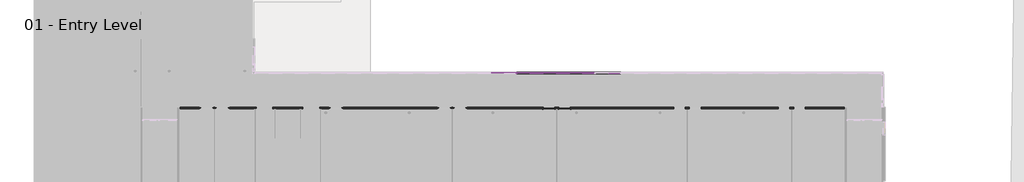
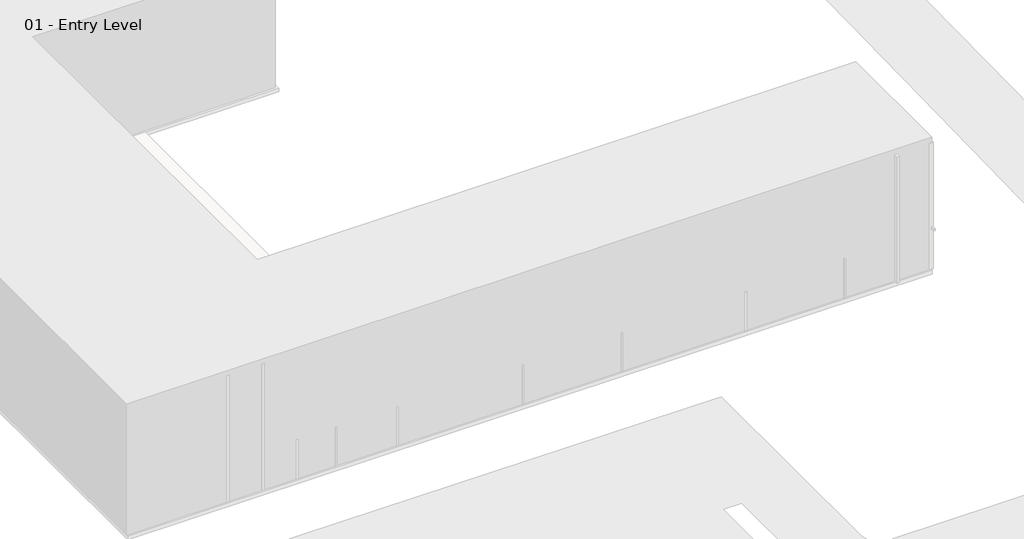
# One storey, part 19 of 34: 72 members, 36 plates, 2 doors, 1 wall.
"""IFC4 building model written with IfcOpenShell, lengths in millimetres."""

from ifc_helpers import new_model, si_unit, origin, place, context, project, spatial, faceted_brep, transform, mapped, element, save
from components import door_a1797ceb, door_a3eb833a, member_2b49869a, member_391b434c, member_9e90ae50, system_panel_glazed_1b9d6098, system_panel_glazed_70da479d

model = new_model("IFC4")

# Units and contexts
model_context = context("Model", 3, world=origin())
ifc_project = project(units=[si_unit("LENGTHUNIT", "METRE", prefix="MILLI")], contexts=[model_context])

# Site, building, storey
site = spatial("IfcSite", under=ifc_project)
building = spatial("IfcBuilding", under=site)
storey = spatial("IfcBuildingStorey", under=building, Name="01 - Entry Level", Elevation=0.0)

# Doors
placement = place(None, origin())
door_shape = door_a1797ceb(model_context)
element("IfcDoor", 1, ObjectType="Single-Flush : 36\" x 84\"", at=placement, inside=storey, context=model_context, shape_type="MappedRepresentation", body=[
    mapped(door_shape, transform((41364.8207476, 8270.8, 0.0), x_axis=(-1.0, 0.0, 0.0), y_axis=(0.0, -1.0, 0.0), z_axis=(0.0, 0.0, 1.0))),
])
door_2_shape = door_a3eb833a(model_context)
element("IfcDoor", 2, ObjectType="Single-Flush : 36\" x 84\"", at=placement, inside=storey, context=model_context, shape_type="MappedRepresentation", body=[
    mapped(door_2_shape, transform((40145.6207476, 8270.8, 0.0), x_axis=(1.0, 0.0, 0.0), y_axis=(0.0, 1.0, 0.0), z_axis=(0.0, 0.0, 1.0))),
])

# Members
member_shape = member_2b49869a(model_context)
element("IfcMember", 3, ObjectType="Rectangular Mullion : 2.5\" x 5\" rectangular", at=placement, inside=storey, context=model_context, shape_type="MappedRepresentation", body=[
    mapped(member_shape, transform((41720.4207476, 11001.3, 9753.6), x_axis=(-1.0, 0.0, 0.0), y_axis=(0.0, 1.0, 0.0), z_axis=(0.0, 0.0, -1.0))),
])
element("IfcMember", 4, ObjectType="Rectangular Mullion : 2.5\" x 5\" rectangular", at=placement, inside=storey, context=model_context, shape_type="MappedRepresentation", body=[
    mapped(member_shape, transform((39688.4207476, 11001.3, 9753.6), x_axis=(-1.0, 0.0, 0.0), y_axis=(0.0, 1.0, 0.0), z_axis=(0.0, 0.0, -1.0))),
])
element("IfcMember", 5, ObjectType="Rectangular Mullion : 2.5\" x 5\" rectangular", at=placement, inside=storey, context=model_context, shape_type="MappedRepresentation", body=[
    mapped(member_shape, transform((37656.4207476, 11001.3, 9753.6), x_axis=(-1.0, 0.0, 0.0), y_axis=(0.0, 1.0, 0.0), z_axis=(0.0, 0.0, -1.0))),
])
member_2_shape = member_391b434c(model_context)
element("IfcMember", 6, ObjectType="Rectangular Mullion : 2.5\" x 5\" rectangular", at=placement, inside=storey, context=model_context, shape_type="MappedRepresentation", body=[
    mapped(member_2_shape, transform((43784.1707476, 11001.3, 10972.8), x_axis=(0.0, 0.0, 1.0), y_axis=(0.0, 1.0, 0.0), z_axis=(-1.0, 0.0, 0.0))),
])
element("IfcMember", 7, ObjectType="Rectangular Mullion : 2.5\" x 5\" rectangular", at=placement, inside=storey, context=model_context, shape_type="MappedRepresentation", body=[
    mapped(member_2_shape, transform((41752.1707476, 11001.3, 10972.8), x_axis=(0.0, 0.0, 1.0), y_axis=(0.0, 1.0, 0.0), z_axis=(-1.0, 0.0, 0.0))),
])
element("IfcMember", 8, ObjectType="Rectangular Mullion : 2.5\" x 5\" rectangular", at=placement, inside=storey, context=model_context, shape_type="MappedRepresentation", body=[
    mapped(member_2_shape, transform((39720.1707476, 11001.3, 10972.8), x_axis=(0.0, 0.0, 1.0), y_axis=(0.0, 1.0, 0.0), z_axis=(-1.0, 0.0, 0.0))),
])
element("IfcMember", 9, ObjectType="Rectangular Mullion : 2.5\" x 5\" rectangular", at=placement, inside=storey, context=model_context, shape_type="MappedRepresentation", body=[
    mapped(member_2_shape, transform((37688.1707476, 11001.3, 10972.8), x_axis=(0.0, 0.0, 1.0), y_axis=(0.0, 1.0, 0.0), z_axis=(-1.0, 0.0, 0.0))),
])
element("IfcMember", 10, ObjectType="Rectangular Mullion : 2.5\" x 5\" rectangular", at=placement, inside=storey, context=model_context, shape_type="MappedRepresentation", body=[
    mapped(member_2_shape, transform((43720.6707476, 11001.3, 0.0), x_axis=(0.0, 0.0, -1.0), y_axis=(0.0, 1.0, 0.0), z_axis=(1.0, 0.0, 0.0))),
])
element("IfcMember", 11, ObjectType="Rectangular Mullion : 2.5\" x 5\" rectangular", at=placement, inside=storey, context=model_context, shape_type="MappedRepresentation", body=[
    mapped(member_2_shape, transform((41688.6707476, 11001.3, 0.0), x_axis=(0.0, 0.0, -1.0), y_axis=(0.0, 1.0, 0.0), z_axis=(1.0, 0.0, 0.0))),
])
element("IfcMember", 12, ObjectType="Rectangular Mullion : 2.5\" x 5\" rectangular", at=placement, inside=storey, context=model_context, shape_type="MappedRepresentation", body=[
    mapped(member_2_shape, transform((39656.6707476, 11001.3, 0.0), x_axis=(0.0, 0.0, -1.0), y_axis=(0.0, 1.0, 0.0), z_axis=(1.0, 0.0, 0.0))),
])
element("IfcMember", 13, ObjectType="Rectangular Mullion : 2.5\" x 5\" rectangular", at=placement, inside=storey, context=model_context, shape_type="MappedRepresentation", body=[
    mapped(member_2_shape, transform((37624.6707476, 11001.3, 0.0), x_axis=(0.0, 0.0, -1.0), y_axis=(0.0, 1.0, 0.0), z_axis=(1.0, 0.0, 0.0))),
])
member_3_shape = member_9e90ae50(model_context)
element("IfcMember", 14, ObjectType="Rectangular Mullion : 2.5\" x 5\" rectangular", at=placement, inside=storey, context=model_context, shape_type="MappedRepresentation", body=[
    mapped(member_3_shape, transform((43784.1707476, 11001.3, 1219.2), x_axis=(0.0, 0.0, 1.0), y_axis=(0.0, 1.0, 0.0), z_axis=(-1.0, 0.0, 0.0))),
])
element("IfcMember", 15, ObjectType="Rectangular Mullion : 2.5\" x 5\" rectangular", at=placement, inside=storey, context=model_context, shape_type="MappedRepresentation", body=[
    mapped(member_3_shape, transform((41752.1707476, 11001.3, 1219.2), x_axis=(0.0, 0.0, 1.0), y_axis=(0.0, 1.0, 0.0), z_axis=(-1.0, 0.0, 0.0))),
])
element("IfcMember", 16, ObjectType="Rectangular Mullion : 2.5\" x 5\" rectangular", at=placement, inside=storey, context=model_context, shape_type="MappedRepresentation", body=[
    mapped(member_3_shape, transform((39720.1707476, 11001.3, 1219.2), x_axis=(0.0, 0.0, 1.0), y_axis=(0.0, 1.0, 0.0), z_axis=(-1.0, 0.0, 0.0))),
])
element("IfcMember", 17, ObjectType="Rectangular Mullion : 2.5\" x 5\" rectangular", at=placement, inside=storey, context=model_context, shape_type="MappedRepresentation", body=[
    mapped(member_3_shape, transform((37688.1707476, 11001.3, 1219.2), x_axis=(0.0, 0.0, 1.0), y_axis=(0.0, 1.0, 0.0), z_axis=(-1.0, 0.0, 0.0))),
])
element("IfcMember", 18, ObjectType="Rectangular Mullion : 2.5\" x 5\" rectangular", at=placement, inside=storey, context=model_context, shape_type="MappedRepresentation", body=[
    mapped(member_3_shape, transform((43784.1707476, 11001.3, 2438.4), x_axis=(0.0, 0.0, 1.0), y_axis=(0.0, 1.0, 0.0), z_axis=(-1.0, 0.0, 0.0))),
])
element("IfcMember", 19, ObjectType="Rectangular Mullion : 2.5\" x 5\" rectangular", at=placement, inside=storey, context=model_context, shape_type="MappedRepresentation", body=[
    mapped(member_3_shape, transform((41752.1707476, 11001.3, 2438.4), x_axis=(0.0, 0.0, 1.0), y_axis=(0.0, 1.0, 0.0), z_axis=(-1.0, 0.0, 0.0))),
])
element("IfcMember", 20, ObjectType="Rectangular Mullion : 2.5\" x 5\" rectangular", at=placement, inside=storey, context=model_context, shape_type="MappedRepresentation", body=[
    mapped(member_3_shape, transform((39720.1707476, 11001.3, 2438.4), x_axis=(0.0, 0.0, 1.0), y_axis=(0.0, 1.0, 0.0), z_axis=(-1.0, 0.0, 0.0))),
])
element("IfcMember", 21, ObjectType="Rectangular Mullion : 2.5\" x 5\" rectangular", at=placement, inside=storey, context=model_context, shape_type="MappedRepresentation", body=[
    mapped(member_3_shape, transform((37688.1707476, 11001.3, 2438.4), x_axis=(0.0, 0.0, 1.0), y_axis=(0.0, 1.0, 0.0), z_axis=(-1.0, 0.0, 0.0))),
])
element("IfcMember", 22, ObjectType="Rectangular Mullion : 2.5\" x 5\" rectangular", at=placement, inside=storey, context=model_context, shape_type="MappedRepresentation", body=[
    mapped(member_3_shape, transform((43784.1707476, 11001.3, 3657.6), x_axis=(0.0, 0.0, 1.0), y_axis=(0.0, 1.0, 0.0), z_axis=(-1.0, 0.0, 0.0))),
])
element("IfcMember", 23, ObjectType="Rectangular Mullion : 2.5\" x 5\" rectangular", at=placement, inside=storey, context=model_context, shape_type="MappedRepresentation", body=[
    mapped(member_3_shape, transform((41752.1707476, 11001.3, 3657.6), x_axis=(0.0, 0.0, 1.0), y_axis=(0.0, 1.0, 0.0), z_axis=(-1.0, 0.0, 0.0))),
])
element("IfcMember", 24, ObjectType="Rectangular Mullion : 2.5\" x 5\" rectangular", at=placement, inside=storey, context=model_context, shape_type="MappedRepresentation", body=[
    mapped(member_3_shape, transform((39720.1707476, 11001.3, 3657.6), x_axis=(0.0, 0.0, 1.0), y_axis=(0.0, 1.0, 0.0), z_axis=(-1.0, 0.0, 0.0))),
])
element("IfcMember", 25, ObjectType="Rectangular Mullion : 2.5\" x 5\" rectangular", at=placement, inside=storey, context=model_context, shape_type="MappedRepresentation", body=[
    mapped(member_3_shape, transform((37688.1707476, 11001.3, 3657.6), x_axis=(0.0, 0.0, 1.0), y_axis=(0.0, 1.0, 0.0), z_axis=(-1.0, 0.0, 0.0))),
])
element("IfcMember", 26, ObjectType="Rectangular Mullion : 2.5\" x 5\" rectangular", at=placement, inside=storey, context=model_context, shape_type="MappedRepresentation", body=[
    mapped(member_3_shape, transform((43784.1707476, 11001.3, 4876.8), x_axis=(0.0, 0.0, 1.0), y_axis=(0.0, 1.0, 0.0), z_axis=(-1.0, 0.0, 0.0))),
])
element("IfcMember", 27, ObjectType="Rectangular Mullion : 2.5\" x 5\" rectangular", at=placement, inside=storey, context=model_context, shape_type="MappedRepresentation", body=[
    mapped(member_3_shape, transform((41752.1707476, 11001.3, 4876.8), x_axis=(0.0, 0.0, 1.0), y_axis=(0.0, 1.0, 0.0), z_axis=(-1.0, 0.0, 0.0))),
])
element("IfcMember", 28, ObjectType="Rectangular Mullion : 2.5\" x 5\" rectangular", at=placement, inside=storey, context=model_context, shape_type="MappedRepresentation", body=[
    mapped(member_3_shape, transform((39720.1707476, 11001.3, 4876.8), x_axis=(0.0, 0.0, 1.0), y_axis=(0.0, 1.0, 0.0), z_axis=(-1.0, 0.0, 0.0))),
])
element("IfcMember", 29, ObjectType="Rectangular Mullion : 2.5\" x 5\" rectangular", at=placement, inside=storey, context=model_context, shape_type="MappedRepresentation", body=[
    mapped(member_3_shape, transform((37688.1707476, 11001.3, 4876.8), x_axis=(0.0, 0.0, 1.0), y_axis=(0.0, 1.0, 0.0), z_axis=(-1.0, 0.0, 0.0))),
])
element("IfcMember", 30, ObjectType="Rectangular Mullion : 2.5\" x 5\" rectangular", at=placement, inside=storey, context=model_context, shape_type="MappedRepresentation", body=[
    mapped(member_3_shape, transform((43784.1707476, 11001.3, 6096.0), x_axis=(0.0, 0.0, 1.0), y_axis=(0.0, 1.0, 0.0), z_axis=(-1.0, 0.0, 0.0))),
])
element("IfcMember", 31, ObjectType="Rectangular Mullion : 2.5\" x 5\" rectangular", at=placement, inside=storey, context=model_context, shape_type="MappedRepresentation", body=[
    mapped(member_3_shape, transform((41752.1707476, 11001.3, 6096.0), x_axis=(0.0, 0.0, 1.0), y_axis=(0.0, 1.0, 0.0), z_axis=(-1.0, 0.0, 0.0))),
])
element("IfcMember", 32, ObjectType="Rectangular Mullion : 2.5\" x 5\" rectangular", at=placement, inside=storey, context=model_context, shape_type="MappedRepresentation", body=[
    mapped(member_3_shape, transform((39720.1707476, 11001.3, 6096.0), x_axis=(0.0, 0.0, 1.0), y_axis=(0.0, 1.0, 0.0), z_axis=(-1.0, 0.0, 0.0))),
])
element("IfcMember", 33, ObjectType="Rectangular Mullion : 2.5\" x 5\" rectangular", at=placement, inside=storey, context=model_context, shape_type="MappedRepresentation", body=[
    mapped(member_3_shape, transform((37688.1707476, 11001.3, 6096.0), x_axis=(0.0, 0.0, 1.0), y_axis=(0.0, 1.0, 0.0), z_axis=(-1.0, 0.0, 0.0))),
])
element("IfcMember", 34, ObjectType="Rectangular Mullion : 2.5\" x 5\" rectangular", at=placement, inside=storey, context=model_context, shape_type="MappedRepresentation", body=[
    mapped(member_3_shape, transform((43784.1707476, 11001.3, 7315.2), x_axis=(0.0, 0.0, 1.0), y_axis=(0.0, 1.0, 0.0), z_axis=(-1.0, 0.0, 0.0))),
])
element("IfcMember", 35, ObjectType="Rectangular Mullion : 2.5\" x 5\" rectangular", at=placement, inside=storey, context=model_context, shape_type="MappedRepresentation", body=[
    mapped(member_3_shape, transform((41752.1707476, 11001.3, 7315.2), x_axis=(0.0, 0.0, 1.0), y_axis=(0.0, 1.0, 0.0), z_axis=(-1.0, 0.0, 0.0))),
])
element("IfcMember", 36, ObjectType="Rectangular Mullion : 2.5\" x 5\" rectangular", at=placement, inside=storey, context=model_context, shape_type="MappedRepresentation", body=[
    mapped(member_3_shape, transform((39720.1707476, 11001.3, 7315.2), x_axis=(0.0, 0.0, 1.0), y_axis=(0.0, 1.0, 0.0), z_axis=(-1.0, 0.0, 0.0))),
])
element("IfcMember", 37, ObjectType="Rectangular Mullion : 2.5\" x 5\" rectangular", at=placement, inside=storey, context=model_context, shape_type="MappedRepresentation", body=[
    mapped(member_3_shape, transform((37688.1707476, 11001.3, 7315.2), x_axis=(0.0, 0.0, 1.0), y_axis=(0.0, 1.0, 0.0), z_axis=(-1.0, 0.0, 0.0))),
])
element("IfcMember", 38, ObjectType="Rectangular Mullion : 2.5\" x 5\" rectangular", at=placement, inside=storey, context=model_context, shape_type="MappedRepresentation", body=[
    mapped(member_3_shape, transform((43784.1707476, 11001.3, 8534.4), x_axis=(0.0, 0.0, 1.0), y_axis=(0.0, 1.0, 0.0), z_axis=(-1.0, 0.0, 0.0))),
])
element("IfcMember", 39, ObjectType="Rectangular Mullion : 2.5\" x 5\" rectangular", at=placement, inside=storey, context=model_context, shape_type="MappedRepresentation", body=[
    mapped(member_3_shape, transform((41752.1707476, 11001.3, 8534.4), x_axis=(0.0, 0.0, 1.0), y_axis=(0.0, 1.0, 0.0), z_axis=(-1.0, 0.0, 0.0))),
])
element("IfcMember", 40, ObjectType="Rectangular Mullion : 2.5\" x 5\" rectangular", at=placement, inside=storey, context=model_context, shape_type="MappedRepresentation", body=[
    mapped(member_3_shape, transform((39720.1707476, 11001.3, 8534.4), x_axis=(0.0, 0.0, 1.0), y_axis=(0.0, 1.0, 0.0), z_axis=(-1.0, 0.0, 0.0))),
])
element("IfcMember", 41, ObjectType="Rectangular Mullion : 2.5\" x 5\" rectangular", at=placement, inside=storey, context=model_context, shape_type="MappedRepresentation", body=[
    mapped(member_3_shape, transform((37688.1707476, 11001.3, 8534.4), x_axis=(0.0, 0.0, 1.0), y_axis=(0.0, 1.0, 0.0), z_axis=(-1.0, 0.0, 0.0))),
])
element("IfcMember", 42, ObjectType="Rectangular Mullion : 2.5\" x 5\" rectangular", at=placement, inside=storey, context=model_context, shape_type="MappedRepresentation", body=[
    mapped(member_3_shape, transform((43784.1707476, 11001.3, 9753.6), x_axis=(0.0, 0.0, 1.0), y_axis=(0.0, 1.0, 0.0), z_axis=(-1.0, 0.0, 0.0))),
])
element("IfcMember", 43, ObjectType="Rectangular Mullion : 2.5\" x 5\" rectangular", at=placement, inside=storey, context=model_context, shape_type="MappedRepresentation", body=[
    mapped(member_3_shape, transform((41752.1707476, 11001.3, 9753.6), x_axis=(0.0, 0.0, 1.0), y_axis=(0.0, 1.0, 0.0), z_axis=(-1.0, 0.0, 0.0))),
])
element("IfcMember", 44, ObjectType="Rectangular Mullion : 2.5\" x 5\" rectangular", at=placement, inside=storey, context=model_context, shape_type="MappedRepresentation", body=[
    mapped(member_3_shape, transform((39720.1707476, 11001.3, 9753.6), x_axis=(0.0, 0.0, 1.0), y_axis=(0.0, 1.0, 0.0), z_axis=(-1.0, 0.0, 0.0))),
])
element("IfcMember", 45, ObjectType="Rectangular Mullion : 2.5\" x 5\" rectangular", at=placement, inside=storey, context=model_context, shape_type="MappedRepresentation", body=[
    mapped(member_3_shape, transform((37688.1707476, 11001.3, 9753.6), x_axis=(0.0, 0.0, 1.0), y_axis=(0.0, 1.0, 0.0), z_axis=(-1.0, 0.0, 0.0))),
])
element("IfcMember", 46, ObjectType="Rectangular Mullion : 2.5\" x 5\" rectangular", at=placement, inside=storey, context=model_context, shape_type="MappedRepresentation", body=[
    mapped(member_shape, transform((43752.4207476, 11001.3, 0.0), x_axis=(-1.0, 0.0, 0.0), y_axis=(0.0, 1.0, 0.0), z_axis=(0.0, 0.0, -1.0))),
])
element("IfcMember", 47, ObjectType="Rectangular Mullion : 2.5\" x 5\" rectangular", at=placement, inside=storey, context=model_context, shape_type="MappedRepresentation", body=[
    mapped(member_shape, transform((41720.4207476, 11001.3, 0.0), x_axis=(-1.0, 0.0, 0.0), y_axis=(0.0, 1.0, 0.0), z_axis=(0.0, 0.0, -1.0))),
])
element("IfcMember", 48, ObjectType="Rectangular Mullion : 2.5\" x 5\" rectangular", at=placement, inside=storey, context=model_context, shape_type="MappedRepresentation", body=[
    mapped(member_shape, transform((39688.4207476, 11001.3, 0.0), x_axis=(-1.0, 0.0, 0.0), y_axis=(0.0, 1.0, 0.0), z_axis=(0.0, 0.0, -1.0))),
])
element("IfcMember", 49, ObjectType="Rectangular Mullion : 2.5\" x 5\" rectangular", at=placement, inside=storey, context=model_context, shape_type="MappedRepresentation", body=[
    mapped(member_shape, transform((37656.4207476, 11001.3, 0.0), x_axis=(-1.0, 0.0, 0.0), y_axis=(0.0, 1.0, 0.0), z_axis=(0.0, 0.0, -1.0))),
])
element("IfcMember", 50, ObjectType="Rectangular Mullion : 2.5\" x 5\" rectangular", at=placement, inside=storey, context=model_context, shape_type="MappedRepresentation", body=[
    mapped(member_shape, transform((43752.4207476, 11001.3, 1219.2), x_axis=(-1.0, 0.0, 0.0), y_axis=(0.0, 1.0, 0.0), z_axis=(0.0, 0.0, -1.0))),
])
element("IfcMember", 51, ObjectType="Rectangular Mullion : 2.5\" x 5\" rectangular", at=placement, inside=storey, context=model_context, shape_type="MappedRepresentation", body=[
    mapped(member_shape, transform((41720.4207476, 11001.3, 1219.2), x_axis=(-1.0, 0.0, 0.0), y_axis=(0.0, 1.0, 0.0), z_axis=(0.0, 0.0, -1.0))),
])
element("IfcMember", 52, ObjectType="Rectangular Mullion : 2.5\" x 5\" rectangular", at=placement, inside=storey, context=model_context, shape_type="MappedRepresentation", body=[
    mapped(member_shape, transform((39688.4207476, 11001.3, 1219.2), x_axis=(-1.0, 0.0, 0.0), y_axis=(0.0, 1.0, 0.0), z_axis=(0.0, 0.0, -1.0))),
])
element("IfcMember", 53, ObjectType="Rectangular Mullion : 2.5\" x 5\" rectangular", at=placement, inside=storey, context=model_context, shape_type="MappedRepresentation", body=[
    mapped(member_shape, transform((37656.4207476, 11001.3, 1219.2), x_axis=(-1.0, 0.0, 0.0), y_axis=(0.0, 1.0, 0.0), z_axis=(0.0, 0.0, -1.0))),
])
element("IfcMember", 54, ObjectType="Rectangular Mullion : 2.5\" x 5\" rectangular", at=placement, inside=storey, context=model_context, shape_type="MappedRepresentation", body=[
    mapped(member_shape, transform((43752.4207476, 11001.3, 2438.4), x_axis=(-1.0, 0.0, 0.0), y_axis=(0.0, 1.0, 0.0), z_axis=(0.0, 0.0, -1.0))),
])
element("IfcMember", 55, ObjectType="Rectangular Mullion : 2.5\" x 5\" rectangular", at=placement, inside=storey, context=model_context, shape_type="MappedRepresentation", body=[
    mapped(member_shape, transform((41720.4207476, 11001.3, 2438.4), x_axis=(-1.0, 0.0, 0.0), y_axis=(0.0, 1.0, 0.0), z_axis=(0.0, 0.0, -1.0))),
])
element("IfcMember", 56, ObjectType="Rectangular Mullion : 2.5\" x 5\" rectangular", at=placement, inside=storey, context=model_context, shape_type="MappedRepresentation", body=[
    mapped(member_shape, transform((39688.4207476, 11001.3, 2438.4), x_axis=(-1.0, 0.0, 0.0), y_axis=(0.0, 1.0, 0.0), z_axis=(0.0, 0.0, -1.0))),
])
element("IfcMember", 57, ObjectType="Rectangular Mullion : 2.5\" x 5\" rectangular", at=placement, inside=storey, context=model_context, shape_type="MappedRepresentation", body=[
    mapped(member_shape, transform((37656.4207476, 11001.3, 2438.4), x_axis=(-1.0, 0.0, 0.0), y_axis=(0.0, 1.0, 0.0), z_axis=(0.0, 0.0, -1.0))),
])
element("IfcMember", 58, ObjectType="Rectangular Mullion : 2.5\" x 5\" rectangular", at=placement, inside=storey, context=model_context, shape_type="MappedRepresentation", body=[
    mapped(member_shape, transform((43752.4207476, 11001.3, 3657.6), x_axis=(-1.0, 0.0, 0.0), y_axis=(0.0, 1.0, 0.0), z_axis=(0.0, 0.0, -1.0))),
])
element("IfcMember", 59, ObjectType="Rectangular Mullion : 2.5\" x 5\" rectangular", at=placement, inside=storey, context=model_context, shape_type="MappedRepresentation", body=[
    mapped(member_shape, transform((41720.4207476, 11001.3, 3657.6), x_axis=(-1.0, 0.0, 0.0), y_axis=(0.0, 1.0, 0.0), z_axis=(0.0, 0.0, -1.0))),
])
element("IfcMember", 60, ObjectType="Rectangular Mullion : 2.5\" x 5\" rectangular", at=placement, inside=storey, context=model_context, shape_type="MappedRepresentation", body=[
    mapped(member_shape, transform((39688.4207476, 11001.3, 3657.6), x_axis=(-1.0, 0.0, 0.0), y_axis=(0.0, 1.0, 0.0), z_axis=(0.0, 0.0, -1.0))),
])
element("IfcMember", 61, ObjectType="Rectangular Mullion : 2.5\" x 5\" rectangular", at=placement, inside=storey, context=model_context, shape_type="MappedRepresentation", body=[
    mapped(member_shape, transform((37656.4207476, 11001.3, 3657.6), x_axis=(-1.0, 0.0, 0.0), y_axis=(0.0, 1.0, 0.0), z_axis=(0.0, 0.0, -1.0))),
])
element("IfcMember", 62, ObjectType="Rectangular Mullion : 2.5\" x 5\" rectangular", at=placement, inside=storey, context=model_context, shape_type="MappedRepresentation", body=[
    mapped(member_shape, transform((43752.4207476, 11001.3, 4876.8), x_axis=(-1.0, 0.0, 0.0), y_axis=(0.0, 1.0, 0.0), z_axis=(0.0, 0.0, -1.0))),
])
element("IfcMember", 63, ObjectType="Rectangular Mullion : 2.5\" x 5\" rectangular", at=placement, inside=storey, context=model_context, shape_type="MappedRepresentation", body=[
    mapped(member_shape, transform((41720.4207476, 11001.3, 4876.8), x_axis=(-1.0, 0.0, 0.0), y_axis=(0.0, 1.0, 0.0), z_axis=(0.0, 0.0, -1.0))),
])
element("IfcMember", 64, ObjectType="Rectangular Mullion : 2.5\" x 5\" rectangular", at=placement, inside=storey, context=model_context, shape_type="MappedRepresentation", body=[
    mapped(member_shape, transform((39688.4207476, 11001.3, 4876.8), x_axis=(-1.0, 0.0, 0.0), y_axis=(0.0, 1.0, 0.0), z_axis=(0.0, 0.0, -1.0))),
])
element("IfcMember", 65, ObjectType="Rectangular Mullion : 2.5\" x 5\" rectangular", at=placement, inside=storey, context=model_context, shape_type="MappedRepresentation", body=[
    mapped(member_shape, transform((37656.4207476, 11001.3, 4876.8), x_axis=(-1.0, 0.0, 0.0), y_axis=(0.0, 1.0, 0.0), z_axis=(0.0, 0.0, -1.0))),
])
element("IfcMember", 66, ObjectType="Rectangular Mullion : 2.5\" x 5\" rectangular", at=placement, inside=storey, context=model_context, shape_type="MappedRepresentation", body=[
    mapped(member_shape, transform((41720.4207476, 11001.3, 6096.0), x_axis=(-1.0, 0.0, 0.0), y_axis=(0.0, 1.0, 0.0), z_axis=(0.0, 0.0, -1.0))),
])
element("IfcMember", 67, ObjectType="Rectangular Mullion : 2.5\" x 5\" rectangular", at=placement, inside=storey, context=model_context, shape_type="MappedRepresentation", body=[
    mapped(member_shape, transform((39688.4207476, 11001.3, 6096.0), x_axis=(-1.0, 0.0, 0.0), y_axis=(0.0, 1.0, 0.0), z_axis=(0.0, 0.0, -1.0))),
])
element("IfcMember", 68, ObjectType="Rectangular Mullion : 2.5\" x 5\" rectangular", at=placement, inside=storey, context=model_context, shape_type="MappedRepresentation", body=[
    mapped(member_shape, transform((37656.4207476, 11001.3, 6096.0), x_axis=(-1.0, 0.0, 0.0), y_axis=(0.0, 1.0, 0.0), z_axis=(0.0, 0.0, -1.0))),
])
element("IfcMember", 69, ObjectType="Rectangular Mullion : 2.5\" x 5\" rectangular", at=placement, inside=storey, context=model_context, shape_type="MappedRepresentation", body=[
    mapped(member_shape, transform((41720.4207476, 11001.3, 7315.2), x_axis=(-1.0, 0.0, 0.0), y_axis=(0.0, 1.0, 0.0), z_axis=(0.0, 0.0, -1.0))),
])
element("IfcMember", 70, ObjectType="Rectangular Mullion : 2.5\" x 5\" rectangular", at=placement, inside=storey, context=model_context, shape_type="MappedRepresentation", body=[
    mapped(member_shape, transform((39688.4207476, 11001.3, 7315.2), x_axis=(-1.0, 0.0, 0.0), y_axis=(0.0, 1.0, 0.0), z_axis=(0.0, 0.0, -1.0))),
])
element("IfcMember", 71, ObjectType="Rectangular Mullion : 2.5\" x 5\" rectangular", at=placement, inside=storey, context=model_context, shape_type="MappedRepresentation", body=[
    mapped(member_shape, transform((37656.4207476, 11001.3, 7315.2), x_axis=(-1.0, 0.0, 0.0), y_axis=(0.0, 1.0, 0.0), z_axis=(0.0, 0.0, -1.0))),
])
element("IfcMember", 72, ObjectType="Rectangular Mullion : 2.5\" x 5\" rectangular", at=placement, inside=storey, context=model_context, shape_type="MappedRepresentation", body=[
    mapped(member_shape, transform((41720.4207476, 11001.3, 8534.4), x_axis=(-1.0, 0.0, 0.0), y_axis=(0.0, 1.0, 0.0), z_axis=(0.0, 0.0, -1.0))),
])
element("IfcMember", 73, ObjectType="Rectangular Mullion : 2.5\" x 5\" rectangular", at=placement, inside=storey, context=model_context, shape_type="MappedRepresentation", body=[
    mapped(member_shape, transform((39688.4207476, 11001.3, 8534.4), x_axis=(-1.0, 0.0, 0.0), y_axis=(0.0, 1.0, 0.0), z_axis=(0.0, 0.0, -1.0))),
])
element("IfcMember", 74, ObjectType="Rectangular Mullion : 2.5\" x 5\" rectangular", at=placement, inside=storey, context=model_context, shape_type="MappedRepresentation", body=[
    mapped(member_shape, transform((37656.4207476, 11001.3, 8534.4), x_axis=(-1.0, 0.0, 0.0), y_axis=(0.0, 1.0, 0.0), z_axis=(0.0, 0.0, -1.0))),
])

# Plates
system_panel_glazed_shape = system_panel_glazed_1b9d6098(model_context)
element("IfcPlate", 75, ObjectType="System Panel : Glazed", at=placement, inside=storey, context=model_context, shape_type="MappedRepresentation", body=[
    mapped(system_panel_glazed_shape, transform((42736.4207476, 11001.3, 63.5), x_axis=(-1.0, 0.0, 0.0), y_axis=(0.0, -1.0, 0.0), z_axis=(0.0, 0.0, 1.0))),
])
element("IfcPlate", 76, ObjectType="System Panel : Glazed", at=placement, inside=storey, context=model_context, shape_type="MappedRepresentation", body=[
    mapped(system_panel_glazed_shape, transform((40704.4207476, 11001.3, 63.5), x_axis=(-1.0, 0.0, 0.0), y_axis=(0.0, -1.0, 0.0), z_axis=(0.0, 0.0, 1.0))),
])
element("IfcPlate", 77, ObjectType="System Panel : Glazed", at=placement, inside=storey, context=model_context, shape_type="MappedRepresentation", body=[
    mapped(system_panel_glazed_shape, transform((38672.4207476, 11001.3, 63.5), x_axis=(-1.0, 0.0, 0.0), y_axis=(0.0, -1.0, 0.0), z_axis=(0.0, 0.0, 1.0))),
])
element("IfcPlate", 78, ObjectType="System Panel : Glazed", at=placement, inside=storey, context=model_context, shape_type="MappedRepresentation", body=[
    mapped(system_panel_glazed_shape, transform((36640.4207476, 11001.3, 63.5), x_axis=(-1.0, 0.0, 0.0), y_axis=(0.0, -1.0, 0.0), z_axis=(0.0, 0.0, 1.0))),
])
element("IfcPlate", 79, ObjectType="System Panel : Glazed", at=placement, inside=storey, context=model_context, shape_type="MappedRepresentation", body=[
    mapped(system_panel_glazed_shape, transform((42736.4207476, 11001.3, 9785.35), x_axis=(-1.0, 0.0, 0.0), y_axis=(0.0, -1.0, 0.0), z_axis=(0.0, 0.0, 1.0))),
])
element("IfcPlate", 80, ObjectType="System Panel : Glazed", at=placement, inside=storey, context=model_context, shape_type="MappedRepresentation", body=[
    mapped(system_panel_glazed_shape, transform((40704.4207476, 11001.3, 9785.35), x_axis=(-1.0, 0.0, 0.0), y_axis=(0.0, -1.0, 0.0), z_axis=(0.0, 0.0, 1.0))),
])
element("IfcPlate", 81, ObjectType="System Panel : Glazed", at=placement, inside=storey, context=model_context, shape_type="MappedRepresentation", body=[
    mapped(system_panel_glazed_shape, transform((38672.4207476, 11001.3, 9785.35), x_axis=(-1.0, 0.0, 0.0), y_axis=(0.0, -1.0, 0.0), z_axis=(0.0, 0.0, 1.0))),
])
element("IfcPlate", 82, ObjectType="System Panel : Glazed", at=placement, inside=storey, context=model_context, shape_type="MappedRepresentation", body=[
    mapped(system_panel_glazed_shape, transform((36640.4207476, 11001.3, 9785.35), x_axis=(-1.0, 0.0, 0.0), y_axis=(0.0, -1.0, 0.0), z_axis=(0.0, 0.0, 1.0))),
])
system_panel_glazed_2_shape = system_panel_glazed_70da479d(model_context)
element("IfcPlate", 83, ObjectType="System Panel : Glazed", at=placement, inside=storey, context=model_context, shape_type="MappedRepresentation", body=[
    mapped(system_panel_glazed_2_shape, transform((42736.4207476, 11001.3, 1250.95), x_axis=(-1.0, 0.0, 0.0), y_axis=(0.0, -1.0, 0.0), z_axis=(0.0, 0.0, 1.0))),
])
element("IfcPlate", 84, ObjectType="System Panel : Glazed", at=placement, inside=storey, context=model_context, shape_type="MappedRepresentation", body=[
    mapped(system_panel_glazed_2_shape, transform((40704.4207476, 11001.3, 1250.95), x_axis=(-1.0, 0.0, 0.0), y_axis=(0.0, -1.0, 0.0), z_axis=(0.0, 0.0, 1.0))),
])
element("IfcPlate", 85, ObjectType="System Panel : Glazed", at=placement, inside=storey, context=model_context, shape_type="MappedRepresentation", body=[
    mapped(system_panel_glazed_2_shape, transform((38672.4207476, 11001.3, 1250.95), x_axis=(-1.0, 0.0, 0.0), y_axis=(0.0, -1.0, 0.0), z_axis=(0.0, 0.0, 1.0))),
])
element("IfcPlate", 86, ObjectType="System Panel : Glazed", at=placement, inside=storey, context=model_context, shape_type="MappedRepresentation", body=[
    mapped(system_panel_glazed_2_shape, transform((36640.4207476, 11001.3, 1250.95), x_axis=(-1.0, 0.0, 0.0), y_axis=(0.0, -1.0, 0.0), z_axis=(0.0, 0.0, 1.0))),
])
element("IfcPlate", 87, ObjectType="System Panel : Glazed", at=placement, inside=storey, context=model_context, shape_type="MappedRepresentation", body=[
    mapped(system_panel_glazed_2_shape, transform((42736.4207476, 11001.3, 2470.15), x_axis=(-1.0, 0.0, 0.0), y_axis=(0.0, -1.0, 0.0), z_axis=(0.0, 0.0, 1.0))),
])
element("IfcPlate", 88, ObjectType="System Panel : Glazed", at=placement, inside=storey, context=model_context, shape_type="MappedRepresentation", body=[
    mapped(system_panel_glazed_2_shape, transform((40704.4207476, 11001.3, 2470.15), x_axis=(-1.0, 0.0, 0.0), y_axis=(0.0, -1.0, 0.0), z_axis=(0.0, 0.0, 1.0))),
])
element("IfcPlate", 89, ObjectType="System Panel : Glazed", at=placement, inside=storey, context=model_context, shape_type="MappedRepresentation", body=[
    mapped(system_panel_glazed_2_shape, transform((38672.4207476, 11001.3, 2470.15), x_axis=(-1.0, 0.0, 0.0), y_axis=(0.0, -1.0, 0.0), z_axis=(0.0, 0.0, 1.0))),
])
element("IfcPlate", 90, ObjectType="System Panel : Glazed", at=placement, inside=storey, context=model_context, shape_type="MappedRepresentation", body=[
    mapped(system_panel_glazed_2_shape, transform((36640.4207476, 11001.3, 2470.15), x_axis=(-1.0, 0.0, 0.0), y_axis=(0.0, -1.0, 0.0), z_axis=(0.0, 0.0, 1.0))),
])
element("IfcPlate", 91, ObjectType="System Panel : Glazed", at=placement, inside=storey, context=model_context, shape_type="MappedRepresentation", body=[
    mapped(system_panel_glazed_2_shape, transform((42736.4207476, 11001.3, 3689.35), x_axis=(-1.0, 0.0, 0.0), y_axis=(0.0, -1.0, 0.0), z_axis=(0.0, 0.0, 1.0))),
])
element("IfcPlate", 92, ObjectType="System Panel : Glazed", at=placement, inside=storey, context=model_context, shape_type="MappedRepresentation", body=[
    mapped(system_panel_glazed_2_shape, transform((40704.4207476, 11001.3, 3689.35), x_axis=(-1.0, 0.0, 0.0), y_axis=(0.0, -1.0, 0.0), z_axis=(0.0, 0.0, 1.0))),
])
element("IfcPlate", 93, ObjectType="System Panel : Glazed", at=placement, inside=storey, context=model_context, shape_type="MappedRepresentation", body=[
    mapped(system_panel_glazed_2_shape, transform((38672.4207476, 11001.3, 3689.35), x_axis=(-1.0, 0.0, 0.0), y_axis=(0.0, -1.0, 0.0), z_axis=(0.0, 0.0, 1.0))),
])
element("IfcPlate", 94, ObjectType="System Panel : Glazed", at=placement, inside=storey, context=model_context, shape_type="MappedRepresentation", body=[
    mapped(system_panel_glazed_2_shape, transform((36640.4207476, 11001.3, 3689.35), x_axis=(-1.0, 0.0, 0.0), y_axis=(0.0, -1.0, 0.0), z_axis=(0.0, 0.0, 1.0))),
])
element("IfcPlate", 95, ObjectType="System Panel : Glazed", at=placement, inside=storey, context=model_context, shape_type="MappedRepresentation", body=[
    mapped(system_panel_glazed_2_shape, transform((42736.4207476, 11001.3, 4908.55), x_axis=(-1.0, 0.0, 0.0), y_axis=(0.0, -1.0, 0.0), z_axis=(0.0, 0.0, 1.0))),
])
element("IfcPlate", 96, ObjectType="System Panel : Glazed", at=placement, inside=storey, context=model_context, shape_type="MappedRepresentation", body=[
    mapped(system_panel_glazed_2_shape, transform((40704.4207476, 11001.3, 4908.55), x_axis=(-1.0, 0.0, 0.0), y_axis=(0.0, -1.0, 0.0), z_axis=(0.0, 0.0, 1.0))),
])
element("IfcPlate", 97, ObjectType="System Panel : Glazed", at=placement, inside=storey, context=model_context, shape_type="MappedRepresentation", body=[
    mapped(system_panel_glazed_2_shape, transform((38672.4207476, 11001.3, 4908.55), x_axis=(-1.0, 0.0, 0.0), y_axis=(0.0, -1.0, 0.0), z_axis=(0.0, 0.0, 1.0))),
])
element("IfcPlate", 98, ObjectType="System Panel : Glazed", at=placement, inside=storey, context=model_context, shape_type="MappedRepresentation", body=[
    mapped(system_panel_glazed_2_shape, transform((36640.4207476, 11001.3, 4908.55), x_axis=(-1.0, 0.0, 0.0), y_axis=(0.0, -1.0, 0.0), z_axis=(0.0, 0.0, 1.0))),
])
element("IfcPlate", 99, ObjectType="System Panel : Glazed", at=placement, inside=storey, context=model_context, shape_type="MappedRepresentation", body=[
    mapped(system_panel_glazed_2_shape, transform((42736.4207476, 11001.3, 6127.75), x_axis=(-1.0, 0.0, 0.0), y_axis=(0.0, -1.0, 0.0), z_axis=(0.0, 0.0, 1.0))),
])
element("IfcPlate", 100, ObjectType="System Panel : Glazed", at=placement, inside=storey, context=model_context, shape_type="MappedRepresentation", body=[
    mapped(system_panel_glazed_2_shape, transform((40704.4207476, 11001.3, 6127.75), x_axis=(-1.0, 0.0, 0.0), y_axis=(0.0, -1.0, 0.0), z_axis=(0.0, 0.0, 1.0))),
])
element("IfcPlate", 101, ObjectType="System Panel : Glazed", at=placement, inside=storey, context=model_context, shape_type="MappedRepresentation", body=[
    mapped(system_panel_glazed_2_shape, transform((38672.4207476, 11001.3, 6127.75), x_axis=(-1.0, 0.0, 0.0), y_axis=(0.0, -1.0, 0.0), z_axis=(0.0, 0.0, 1.0))),
])
element("IfcPlate", 102, ObjectType="System Panel : Glazed", at=placement, inside=storey, context=model_context, shape_type="MappedRepresentation", body=[
    mapped(system_panel_glazed_2_shape, transform((36640.4207476, 11001.3, 6127.75), x_axis=(-1.0, 0.0, 0.0), y_axis=(0.0, -1.0, 0.0), z_axis=(0.0, 0.0, 1.0))),
])
element("IfcPlate", 103, ObjectType="System Panel : Glazed", at=placement, inside=storey, context=model_context, shape_type="MappedRepresentation", body=[
    mapped(system_panel_glazed_2_shape, transform((42736.4207476, 11001.3, 7346.95), x_axis=(-1.0, 0.0, 0.0), y_axis=(0.0, -1.0, 0.0), z_axis=(0.0, 0.0, 1.0))),
])
element("IfcPlate", 104, ObjectType="System Panel : Glazed", at=placement, inside=storey, context=model_context, shape_type="MappedRepresentation", body=[
    mapped(system_panel_glazed_2_shape, transform((40704.4207476, 11001.3, 7346.95), x_axis=(-1.0, 0.0, 0.0), y_axis=(0.0, -1.0, 0.0), z_axis=(0.0, 0.0, 1.0))),
])
element("IfcPlate", 105, ObjectType="System Panel : Glazed", at=placement, inside=storey, context=model_context, shape_type="MappedRepresentation", body=[
    mapped(system_panel_glazed_2_shape, transform((38672.4207476, 11001.3, 7346.95), x_axis=(-1.0, 0.0, 0.0), y_axis=(0.0, -1.0, 0.0), z_axis=(0.0, 0.0, 1.0))),
])
element("IfcPlate", 106, ObjectType="System Panel : Glazed", at=placement, inside=storey, context=model_context, shape_type="MappedRepresentation", body=[
    mapped(system_panel_glazed_2_shape, transform((36640.4207476, 11001.3, 7346.95), x_axis=(-1.0, 0.0, 0.0), y_axis=(0.0, -1.0, 0.0), z_axis=(0.0, 0.0, 1.0))),
])
element("IfcPlate", 107, ObjectType="System Panel : Glazed", at=placement, inside=storey, context=model_context, shape_type="MappedRepresentation", body=[
    mapped(system_panel_glazed_2_shape, transform((42736.4207476, 11001.3, 8566.15), x_axis=(-1.0, 0.0, 0.0), y_axis=(0.0, -1.0, 0.0), z_axis=(0.0, 0.0, 1.0))),
])
element("IfcPlate", 108, ObjectType="System Panel : Glazed", at=placement, inside=storey, context=model_context, shape_type="MappedRepresentation", body=[
    mapped(system_panel_glazed_2_shape, transform((40704.4207476, 11001.3, 8566.15), x_axis=(-1.0, 0.0, 0.0), y_axis=(0.0, -1.0, 0.0), z_axis=(0.0, 0.0, 1.0))),
])
element("IfcPlate", 109, ObjectType="System Panel : Glazed", at=placement, inside=storey, context=model_context, shape_type="MappedRepresentation", body=[
    mapped(system_panel_glazed_2_shape, transform((38672.4207476, 11001.3, 8566.15), x_axis=(-1.0, 0.0, 0.0), y_axis=(0.0, -1.0, 0.0), z_axis=(0.0, 0.0, 1.0))),
])
element("IfcPlate", 110, ObjectType="System Panel : Glazed", at=placement, inside=storey, context=model_context, shape_type="MappedRepresentation", body=[
    mapped(system_panel_glazed_2_shape, transform((36640.4207476, 11001.3, 8566.15), x_axis=(-1.0, 0.0, 0.0), y_axis=(0.0, -1.0, 0.0), z_axis=(0.0, 0.0, 1.0))),
])

# Wall
element("IfcWall", 111, ObjectType="Generic - 5\"", at=placement, inside=storey, context=model_context, shape_type="Brep", body=[
    faceted_brep([(58890.8207476, 8207.3, 0.0), (58979.7207476, 8207.3, 0.0), (59106.7207476, 8207.3, 0.0), (59195.6207476, 8207.3, 0.0), (59195.6207476, 8207.3, 2133.6), (60110.0207476, 8207.3, 2133.6), (60110.0207476, 8207.3, 0.0), (63145.3207476, 8207.3, 0.0), (63145.3207476, 8207.3, 3403.6), (59106.7207476, 8207.3, 3403.6), (58979.7207476, 8207.3, 3403.6), (50978.7207476, 8207.3, 3403.6), (50851.7207476, 8207.3, 3403.6), (40818.7207476, 8207.3, 3403.6), (40691.7207476, 8207.3, 3403.6), (32690.7207476, 8207.3, 3403.6), (32563.7207476, 8207.3, 3403.6), (22429.1207476, 8207.3, 3403.6), (22302.1207476, 8207.3, 3403.6), (20892.4207476, 8207.3, 3403.6), (20765.4207476, 8207.3, 3403.6), (18885.8207476, 8207.3, 3403.6), (18758.8207476, 8207.3, 3403.6), (17361.8207476, 8207.3, 3403.6), (17234.8207476, 8207.3, 3403.6), (14186.8207476, 8207.3, 3403.6), (14059.8207476, 8207.3, 3403.6), (11405.5207476, 8207.3, 3403.6), (11405.5207476, 8207.3, 0.0), (13056.5207476, 8207.3, 0.0), (13056.5207476, 8207.3, 2133.6), (13970.9207476, 8207.3, 2133.6), (13970.9207476, 8207.3, 0.0), (14059.8207476, 8207.3, 0.0), (14186.8207476, 8207.3, 0.0), (14275.7207476, 8207.3, 0.0), (14275.7207476, 8207.3, 2133.6), (15190.1207476, 8207.3, 2133.6), (15190.1207476, 8207.3, 0.0), (17234.8207476, 8207.3, 0.0), (17361.8207476, 8207.3, 0.0), (17361.8207476, 8207.3, 2133.6), (18669.9207476, 8207.3, 2133.6), (18669.9207476, 8207.3, 0.0), (18758.8207476, 8207.3, 0.0), (18885.8207476, 8207.3, 0.0), (20765.4207476, 8207.3, 0.0), (20892.4207476, 8207.3, 0.0), (20981.3207476, 8207.3, 0.0), (20981.3207476, 8207.3, 2133.6), (22302.1207476, 8207.3, 2133.6), (22302.1207476, 8207.3, 0.0), (22429.1207476, 8207.3, 0.0), (23114.9207476, 8207.3, 0.0), (23114.9207476, 8207.3, 2133.6), (24029.3207476, 8207.3, 2133.6), (24029.3207476, 8207.3, 0.0), (31560.4207476, 8207.3, 0.0), (31560.4207476, 8207.3, 2133.6), (32474.8207476, 8207.3, 2133.6), (32474.8207476, 8207.3, 0.0), (32563.7207476, 8207.3, 0.0), (32690.7207476, 8207.3, 0.0), (32779.6207476, 8207.3, 0.0), (32779.6207476, 8207.3, 2133.6), (33694.0207476, 8207.3, 2133.6), (33694.0207476, 8207.3, 0.0), (39688.4207476, 8207.3, 0.0), (39688.4207476, 8207.3, 2133.6), (40602.8207476, 8207.3, 2133.6), (40602.8207476, 8207.3, 0.0), (40691.7207476, 8207.3, 0.0), (40818.7207476, 8207.3, 0.0), (40907.6207476, 8207.3, 0.0), (40907.6207476, 8207.3, 2133.6), (41822.0207476, 8207.3, 2133.6), (41822.0207476, 8207.3, 0.0), (49848.4207476, 8207.3, 0.0), (49848.4207476, 8207.3, 2133.6), (50762.8207476, 8207.3, 2133.6), (50762.8207476, 8207.3, 0.0), (50851.7207476, 8207.3, 0.0), (50978.7207476, 8207.3, 0.0), (51067.6207476, 8207.3, 0.0), (51067.6207476, 8207.3, 2133.6), (51982.0207476, 8207.3, 2133.6), (51982.0207476, 8207.3, 0.0), (57976.4207476, 8207.3, 0.0), (57976.4207476, 8207.3, 2133.6), (58890.8207476, 8207.3, 2133.6), (59195.6207476, 8334.3, 2133.6), (59195.6207476, 8334.3, 0.0), (58890.8207476, 8334.3, 0.0), (58890.8207476, 8334.3, 2133.6), (57976.4207476, 8334.3, 2133.6), (57976.4207476, 8334.3, 0.0), (51982.0207476, 8334.3, 0.0), (51982.0207476, 8334.3, 2133.6), (51067.6207476, 8334.3, 2133.6), (51067.6207476, 8334.3, 0.0), (50762.8207476, 8334.3, 0.0), (50762.8207476, 8334.3, 2133.6), (49848.4207476, 8334.3, 2133.6), (49848.4207476, 8334.3, 0.0), (41822.0207476, 8334.3, 0.0), (41822.0207476, 8334.3, 2133.6), (40907.6207476, 8334.3, 2133.6), (40907.6207476, 8334.3, 0.0), (40602.8207476, 8334.3, 0.0), (40602.8207476, 8334.3, 2133.6), (39688.4207476, 8334.3, 2133.6), (39688.4207476, 8334.3, 0.0), (33694.0207476, 8334.3, 0.0), (33694.0207476, 8334.3, 2133.6), (32779.6207476, 8334.3, 2133.6), (32779.6207476, 8334.3, 0.0), (32474.8207476, 8334.3, 0.0), (32474.8207476, 8334.3, 2133.6), (31560.4207476, 8334.3, 2133.6), (31560.4207476, 8334.3, 0.0), (24029.3207476, 8334.3, 0.0), (24029.3207476, 8334.3, 2133.6), (23114.9207476, 8334.3, 2133.6), (23114.9207476, 8334.3, 0.0), (22302.1207476, 8334.3, 0.0), (22302.1207476, 8334.3, 2133.6), (20981.3207476, 8334.3, 2133.6), (20981.3207476, 8334.3, 0.0), (18669.9207476, 8334.3, 0.0), (18669.9207476, 8334.3, 2133.6), (17361.8207476, 8334.3, 2133.6), (17361.8207476, 8334.3, 0.0), (15190.1207476, 8334.3, 0.0), (15190.1207476, 8334.3, 2133.6), (14275.7207476, 8334.3, 2133.6), (14275.7207476, 8334.3, 0.0), (13970.9207476, 8334.3, 0.0), (13970.9207476, 8334.3, 2133.6), (13056.5207476, 8334.3, 2133.6), (13056.5207476, 8334.3, 0.0), (11405.5207476, 8334.3, 0.0), (11405.5207476, 8334.3, 3403.6), (63145.3207476, 8334.3, 3403.6), (63145.3207476, 8334.3, 0.0), (60110.0207476, 8334.3, 0.0), (60110.0207476, 8334.3, 2133.6)], [[[0, 1, 2, 3, 4, 5, 6, 7, 8, 9, 10, 11, 12, 13, 14, 15, 16, 17, 18, 19, 20, 21, 22, 23, 24, 25, 26, 27, 28, 29, 30, 31, 32, 33, 34, 35, 36, 37, 38, 39, 40, 41, 42, 43, 44, 45, 46, 47, 48, 49, 50, 51, 52, 53, 54, 55, 56, 57, 58, 59, 60, 61, 62, 63, 64, 65, 66, 67, 68, 69, 70, 71, 72, 73, 74, 75, 76, 77, 78, 79, 80, 81, 82, 83, 84, 85, 86, 87, 88, 89]], [[90, 91, 92, 93, 94, 95, 96, 97, 98, 99, 100, 101, 102, 103, 104, 105, 106, 107, 108, 109, 110, 111, 112, 113, 114, 115, 116, 117, 118, 119, 120, 121, 122, 123, 124, 125, 126, 127, 128, 129, 130, 131, 132, 133, 134, 135, 136, 137, 138, 139, 140, 141, 142, 143, 144, 145]], [[124, 123, 53, 52, 51]], [[136, 135, 35, 34, 33, 32]], [[43, 128, 127, 48, 47, 46, 45, 44]], [[29, 28, 140, 139]], [[132, 131, 40, 39, 38]], [[116, 115, 63, 62, 61, 60]], [[57, 56, 120, 119]], [[108, 107, 73, 72, 71, 70]], [[67, 66, 112, 111]], [[100, 99, 83, 82, 81, 80]], [[77, 76, 104, 103]], [[92, 91, 3, 2, 1, 0]], [[87, 86, 96, 95]], [[144, 143, 7, 6]], [[41, 130, 129, 42]], [[42, 129, 128, 43]], [[49, 126, 125, 50]], [[126, 49, 48, 127]], [[28, 27, 141, 140]], [[8, 7, 143, 142]], [[50, 125, 124, 51]], [[130, 41, 40, 131]], [[27, 26, 25, 24, 23, 22, 21, 20, 19, 18, 17, 16, 15, 14, 13, 12, 11, 10, 9, 8, 142, 141]], [[137, 136, 32, 31]], [[138, 137, 31, 30]], [[139, 138, 30, 29]], [[36, 35, 135, 134]], [[37, 36, 134, 133]], [[38, 37, 133, 132]], [[54, 53, 123, 122]], [[55, 54, 122, 121]], [[56, 55, 121, 120]], [[117, 116, 60, 59]], [[118, 117, 59, 58]], [[119, 118, 58, 57]], [[64, 63, 115, 114]], [[65, 64, 114, 113]], [[66, 65, 113, 112]], [[109, 108, 70, 69]], [[110, 109, 69, 68]], [[111, 110, 68, 67]], [[74, 73, 107, 106]], [[75, 74, 106, 105]], [[76, 75, 105, 104]], [[101, 100, 80, 79]], [[102, 101, 79, 78]], [[103, 102, 78, 77]], [[84, 83, 99, 98]], [[85, 84, 98, 97]], [[86, 85, 97, 96]], [[93, 92, 0, 89]], [[94, 93, 89, 88]], [[95, 94, 88, 87]], [[4, 3, 91, 90]], [[5, 4, 90, 145]], [[6, 5, 145, 144]]]),
])

save(model, "model.ifc")
